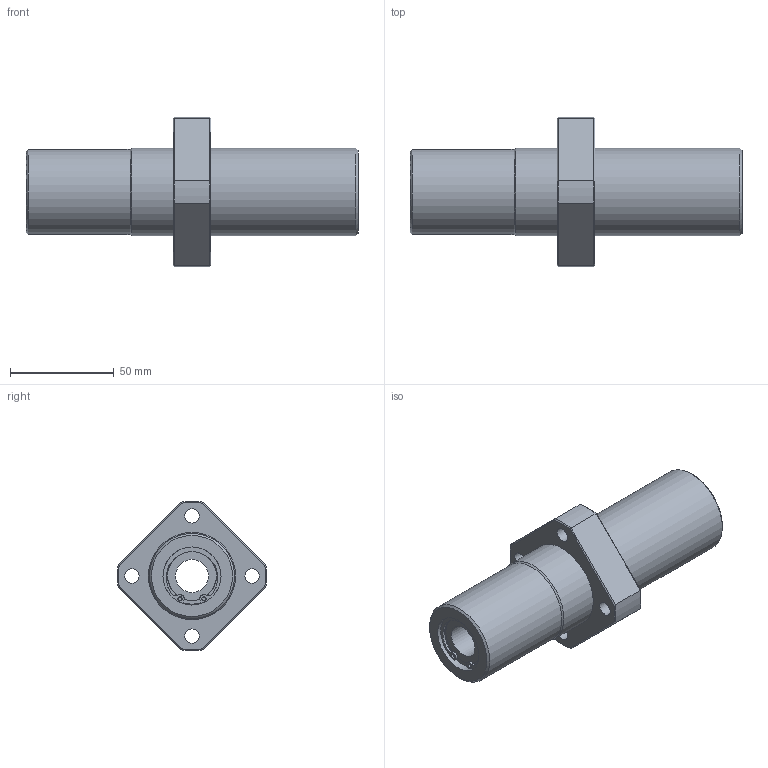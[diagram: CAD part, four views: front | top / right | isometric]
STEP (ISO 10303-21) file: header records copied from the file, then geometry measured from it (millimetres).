
FILE_DESCRIPTION((''),'2;1');
FILE_NAME('C:\Documents and Settings\土屋\My Documents\土屋移動用フォルダ\製品 (図面)\カタログ用3D\変換ファイル\OZAK_3D-CAD(STEP形式)\Part1.-Linear Bearings_ﾘﾆｱﾍﾞｱﾘﾝｸﾞ\09_Maintenance Free_ﾒｲﾝﾃﾅﾝｽﾌﾘｰ\L2017-09-22T14:13:23','2017-09-22T14:13:23',('y'),(''),'Autodesk Inventor 11','Autodesk Inventor 11','');
FILE_SCHEMA(('AUTOMOTIVE_DESIGN { 1 0 10303 214 1 1 1 1 }'));
Length unit declared in the file: millimetre
Products named in the file (1): LFWLC16MF
Bounding box: 160 x 71.91 x 71.91 mm (x, y, z)
Volume: 214096.3 mm3; surface area: 41144 mm2
Topology: 1 solids, 7 shells, 115 faces, 265 edges, 162 vertices
Faces by surface type: plane 36, bspline 34, cylinder 32, cone 11, torus 2
Full cylindrical faces by diameter (mm): 2 x2, 7 x4, 16 x2, 23.5 x2, 26.6 x2, 28 x8, 41 x1, 42 x2
Entity records: 3261 total; most frequent: CARTESIAN_POINT 872, DIRECTION 500, ORIENTED_EDGE 420, AXIS2_PLACEMENT_3D 224, EDGE_CURVE 210, EDGE_LOOP 186, VERTEX_POINT 146, CIRCLE 142
